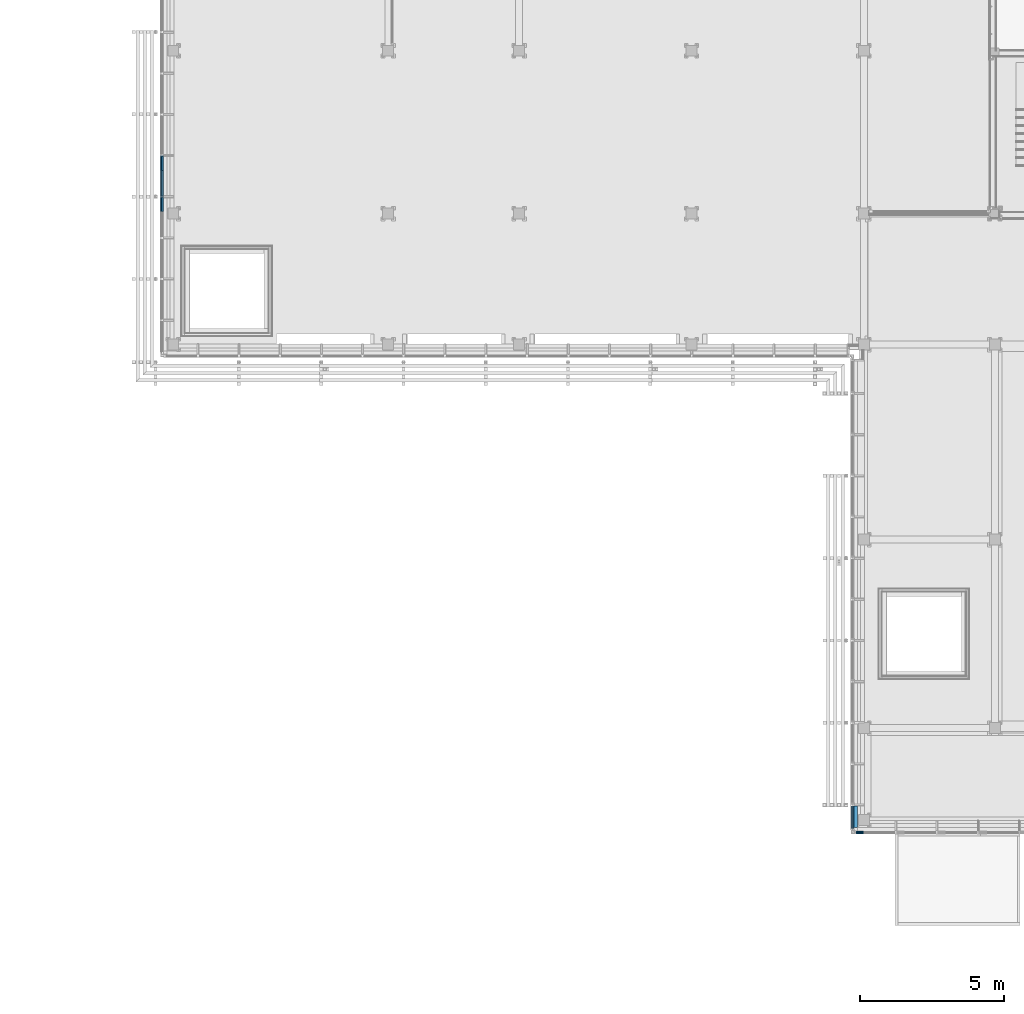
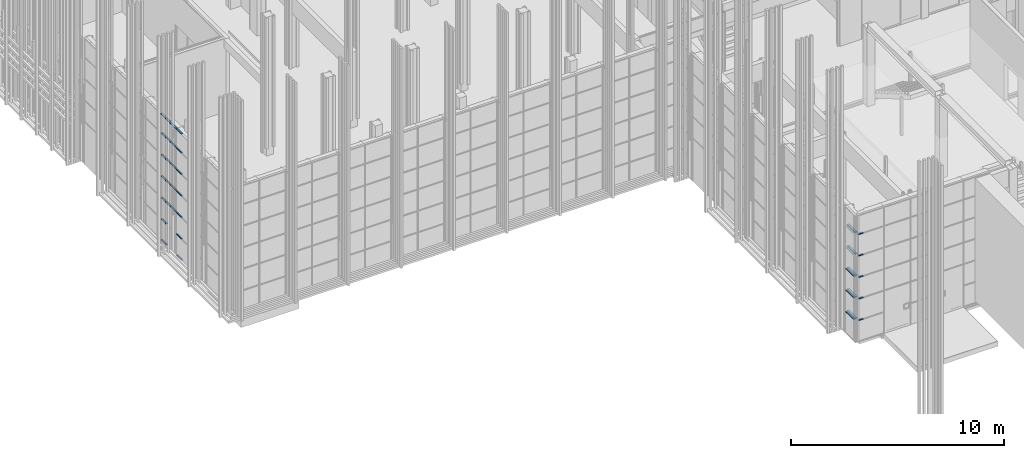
# One storey, part 40 of 260: 32 members, 2 elements without a shape of their own.
"""IFC2X3 building model written with IfcOpenShell, lengths in millimetres."""

import ifcopenshell
import ifcopenshell.guid

model = None  # the IFC model being written
_history = None  # IfcOwnerHistory: only IFC2X3 demands one
_inside = {}  # id of a spatial element -> (the spatial element, [elements in it])
_under = {}  # id of a project, library or spatial element -> (it, [spatial elements below it])
_declared = {}  # id of a project -> (the project, [libraries it declares])
_typed = {}  # id of a type object -> (the type object, [elements of that type])
_made_of = {}  # id of a material, layer set ... -> (it, [elements and type objects made of it])


def new_model(schema):
    """Start an empty IFC model of exactly this schema.

    Asked for "IFC4X3", IfcOpenShell would pick the latest addendum, in which some entities
    have other attributes; the version numbers below select the first issue.
    IFC2X3 requires an IfcOwnerHistory on every rooted entity: one is made here for all.
    """
    global model, _history
    if schema == "IFC4X3":
        model = ifcopenshell.file(schema_version=(4, 3, 0, 0))
    else:
        model = ifcopenshell.file(schema=schema)
    _inside.clear()
    _under.clear()
    _declared.clear()
    _typed.clear()
    _made_of.clear()
    _history = None
    if model.schema == "IFC2X3":
        org = make("IfcOrganization", Name="unknown")
        user = make(
            "IfcPersonAndOrganization",
            ThePerson=make("IfcPerson", FamilyName="unknown"),
            TheOrganization=org,
        )
        app = make(
            "IfcApplication",
            ApplicationDeveloper=org,
            Version="unknown",
            ApplicationFullName="unknown",
            ApplicationIdentifier="unknown",
        )
        _history = make(
            "IfcOwnerHistory",
            OwningUser=user,
            OwningApplication=app,
            ChangeAction="ADDED",
            CreationDate=0,
        )
    return model


def make(cls, **values):
    """One entity of the class cls with the attributes given. An attribute that is None is left unset."""
    return model.create_entity(
        cls, **{name: value for name, value in values.items() if value is not None}
    )


def entity(cls, *values):
    """Any entity or typed value of the class cls, its attributes in the order of the schema. None: left unset."""
    e = model.create_entity(cls)
    for i, value in enumerate(values):
        if value is not None:
            e[i] = value
    return e


def rooted(cls, **values):
    """An entity with a GlobalId (a new one), such as an element, a storey or a relation."""
    return make(cls, GlobalId=ifcopenshell.guid.new(), OwnerHistory=_history, **values)


def si_unit(unit_type, name, prefix=None):
    """IfcSIUnit, for example si_unit("LENGTHUNIT", "METRE", prefix="MILLI")."""
    return make("IfcSIUnit", UnitType=unit_type, Prefix=prefix, Name=name)


def converted_unit(unit_type, name, factor, base, dimensions=None, offset=None):
    """IfcConversionBasedUnit, such as the inch: factor (a typed value) times the base unit."""
    return make(
        "IfcConversionBasedUnit"
        if offset is None
        else "IfcConversionBasedUnitWithOffset",
        ConversionOffset=offset,
        Dimensions=None
        if dimensions is None
        else entity("IfcDimensionalExponents", *dimensions),
        UnitType=unit_type,
        Name=name,
        ConversionFactor=make(
            "IfcMeasureWithUnit", ValueComponent=factor, UnitComponent=base
        ),
    )


def derived_unit(unit_type, elements):
    """IfcDerivedUnit: a product of units, each with its exponent."""
    return make(
        "IfcDerivedUnit",
        Elements=[
            make("IfcDerivedUnitElement", Unit=unit, Exponent=power)
            for unit, power in elements
        ],
        UnitType=unit_type,
    )


def money_unit(currency):
    """IfcMonetaryUnit."""
    return make("IfcMonetaryUnit", Currency=currency)


def assignment(units):
    """IfcUnitAssignment: the units of a project."""
    return None if units is None else make("IfcUnitAssignment", Units=units)


def point(xyz):
    """IfcCartesianPoint."""
    return None if xyz is None else make("IfcCartesianPoint", Coordinates=xyz)


def direction(xyz):
    """IfcDirection."""
    return None if xyz is None else make("IfcDirection", DirectionRatios=xyz)


def frame(location, z_axis=None, x_axis=None):
    """IfcAxis2Placement3D, a coordinate frame: its origin and axes. An axis left out is left unset."""
    return make(
        "IfcAxis2Placement3D",
        Location=point(location),
        Axis=direction(z_axis),
        RefDirection=direction(x_axis),
    )


def origin_with_axes():
    """The frame at (0, 0, 0) with the z axis (0, 0, 1) and the x axis (1, 0, 0) written out."""
    return frame((0.0, 0.0, 0.0), z_axis=(0.0, 0.0, 1.0), x_axis=(1.0, 0.0, 0.0))


def place(relative_to, where):
    """IfcLocalPlacement: puts the frame where relative to a parent placement (None: the world)."""
    return make(
        "IfcLocalPlacement", PlacementRelTo=relative_to, RelativePlacement=where
    )


def context(
    kind, dimensions, precision=None, world=None, true_north=None, identifier=None
):
    """IfcGeometricRepresentationContext, for example the 3D "Model" context."""
    return make(
        "IfcGeometricRepresentationContext",
        ContextIdentifier=identifier,
        ContextType=kind,
        CoordinateSpaceDimension=dimensions,
        Precision=precision,
        WorldCoordinateSystem=world,
        TrueNorth=true_north,
    )


def subcontext(parent, identifier, kind, view, scale=None):
    """IfcGeometricRepresentationSubContext, for example "Body" below "Model"."""
    return make(
        "IfcGeometricRepresentationSubContext",
        ContextIdentifier=identifier,
        ContextType=kind,
        ParentContext=parent,
        TargetScale=scale,
        TargetView=view,
    )


def project(units=None, contexts=None):
    """IfcProject with its units and contexts."""
    return rooted(
        "IfcProject",
        Name="project",
        RepresentationContexts=contexts,
        UnitsInContext=assignment(units),
    )


def spatial(cls, under=None, at=None, **own):
    """A site, building, storey or space (cls), placed at a placement, below another one or the project."""
    s = rooted(cls, ObjectPlacement=at, **own)
    if under is not None:
        _under.setdefault(under.id(), (under, []))[1].append(s)
    return s


def faces_of(points, faces, orient=None, outer=None):
    """IfcFace entities. A face is a list of loops; a loop is a list of indices into points, from 0.

    orient and outer hold one flag for each loop. By default every Orientation is true, the
    first loop of a face is its IfcFaceOuterBound and the others are IfcFaceBound.
    """
    made = []
    for i, loops in enumerate(faces):
        bounds = []
        for j, loop in enumerate(loops):
            is_outer = j == 0 if outer is None else outer[i][j]
            bounds.append(
                make(
                    "IfcFaceOuterBound" if is_outer else "IfcFaceBound",
                    Bound=make("IfcPolyLoop", Polygon=[points[k] for k in loop]),
                    Orientation=True if orient is None else orient[i][j],
                )
            )
        made.append(make("IfcFace", Bounds=bounds))
    return made


def faceted_brep(points, faces, orient=None, outer=None, voids=None):
    """IfcFacetedBrep: a solid bounded by flat faces; with voids (closed shells), ...WithVoids."""
    shared = [point(p) for p in points]
    hull = make("IfcClosedShell", CfsFaces=faces_of(shared, faces, orient, outer))
    if voids is None:
        return make("IfcFacetedBrep", Outer=hull)
    return make(
        "IfcFacetedBrepWithVoids",
        Outer=hull,
        Voids=[
            make(cls, CfsFaces=faces_of(shared, fs, o, b)) for cls, fs, o, b in voids
        ],
    )


def shape(context_of_items, identifier, shape_type, items):
    """IfcShapeRepresentation: the items that make up one representation, for example the "Body"."""
    return make(
        "IfcShapeRepresentation",
        ContextOfItems=context_of_items,
        RepresentationIdentifier=identifier,
        RepresentationType=shape_type,
        Items=items,
    )


def source(mapping_origin, context_of_items, identifier, shape_type, items):
    """IfcRepresentationMap: a shape defined once, which mapped items show again and again."""
    return make(
        "IfcRepresentationMap",
        MappingOrigin=mapping_origin,
        MappedRepresentation=shape(context_of_items, identifier, shape_type, items),
    )


def transform(
    local_origin,
    x_axis=None,
    y_axis=None,
    z_axis=None,
    scale=None,
    scale2=None,
    scale3=None,
    uniform=True,
):
    """IfcCartesianTransformationOperator3D, or its non-uniform kind. x_axis, y_axis, z_axis: its Axis1, 2, 3."""
    if uniform:
        return make(
            "IfcCartesianTransformationOperator3D",
            Axis1=direction(x_axis),
            Axis2=direction(y_axis),
            LocalOrigin=point(local_origin),
            Scale=scale,
            Axis3=direction(z_axis),
        )
    return make(
        "IfcCartesianTransformationOperator3DnonUniform",
        Axis1=direction(x_axis),
        Axis2=direction(y_axis),
        LocalOrigin=point(local_origin),
        Scale=scale,
        Axis3=direction(z_axis),
        Scale2=scale2,
        Scale3=scale3,
    )


def mapped(mapping_source, mapping_target):
    """IfcMappedItem: shows the shape of a source again, moved by a transform."""
    return make(
        "IfcMappedItem", MappingSource=mapping_source, MappingTarget=mapping_target
    )


def material(Name=None, Category=None):
    """IfcMaterial."""
    return make("IfcMaterial", Name=Name, Category=Category)


def made_of(thing, what):
    """Note that an element or type object is made of a material, layer set ...; save() writes the relation."""
    if what is not None:
        _made_of.setdefault(what.id(), (what, []))[1].append(thing)
    return thing


def type_object(cls, material=None, **own):
    """A type object (cls), such as IfcWallType, which elements share."""
    return made_of(rooted(cls, **own), material)


def element(
    cls,
    number,
    at=None,
    inside=None,
    cuts=None,
    type_object=None,
    material=None,
    context=None,
    identifier="Body",
    shape_type=None,
    held_by="IfcProductDefinitionShape",
    body=None,
    shapes=None,
    **own,
):
    """One element of the class cls, such as IfcWall. Its Tag is "e" and its number.

    at: its placement. inside: the storey or other place that contains it. cuts: it is an
    opening in that element (IfcRelVoidsElement). A single representation is given by context,
    identifier, shape_type and body (its items); several are given by shapes. held_by: the class
    of the entity that holds the representations. save() writes the other relations.
    """
    e = rooted(cls, Tag="e%d" % number, ObjectPlacement=at, **own)
    if body is not None:
        shapes = [shape(context, identifier, shape_type, body)]
    if shapes is not None:
        e.Representation = make(held_by, Representations=shapes)
    if inside is not None:
        _inside.setdefault(inside.id(), (inside, []))[1].append(e)
    if cuts is not None:
        rooted(
            "IfcRelVoidsElement", RelatingBuildingElement=cuts, RelatedOpeningElement=e
        )
    if type_object is not None:
        _typed.setdefault(type_object.id(), (type_object, []))[1].append(e)
    return made_of(e, material)


def aggregate(whole, parts):
    """IfcRelAggregates: a whole, such as a stair, and the parts it consists of."""
    return rooted("IfcRelAggregates", RelatingObject=whole, RelatedObjects=parts)


def save(model, path):
    """Write the relations noted so far, then the file.

    IfcRelAggregates (storeys below a building ...), IfcRelContainedInSpatialStructure (elements
    in a storey), IfcRelDefinesByType, IfcRelAssociatesMaterial and IfcRelDeclares: one each for
    every whole, place, type object, material and project.
    """
    for whole, parts in _under.values():
        aggregate(whole, parts)
    for where, things in _inside.values():
        rooted(
            "IfcRelContainedInSpatialStructure",
            RelatedElements=things,
            RelatingStructure=where,
        )
    for kind, things in _typed.values():
        rooted("IfcRelDefinesByType", RelatedObjects=things, RelatingType=kind)
    for what, things in _made_of.values():
        rooted("IfcRelAssociatesMaterial", RelatedObjects=things, RelatingMaterial=what)
    for by, libraries in _declared.values():
        rooted("IfcRelDeclares", RelatingContext=by, RelatedDefinitions=libraries)
    model.write(path)


model = new_model("IFC2X3")

# Units and contexts
model_context = context("Model", 3, precision=0.01, world=origin_with_axes(), true_north=direction((0.0, 1.0)))
body_context = subcontext(model_context, "Body", "Model", "MODEL_VIEW")
ifc_project = project(units=[si_unit("LENGTHUNIT", "METRE", prefix="MILLI"), si_unit("AREAUNIT", "SQUARE_METRE"), si_unit("VOLUMEUNIT", "CUBIC_METRE"), converted_unit("PLANEANGLEUNIT", "DEGREE", entity("IfcPlaneAngleMeasure", 0.0174532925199), si_unit("PLANEANGLEUNIT", "RADIAN"), dimensions=[0, 0, 0, 0, 0, 0, 0]), money_unit("EUR"), converted_unit("TIMEUNIT", "Year", entity("IfcTimeMeasure", 31556926.0), si_unit("TIMEUNIT", "SECOND"), dimensions=[0, 0, 1, 0, 0, 0, 0]), si_unit("MASSUNIT", "GRAM", prefix="KILO"), si_unit("THERMODYNAMICTEMPERATUREUNIT", "DEGREE_CELSIUS"), si_unit("LUMINOUSINTENSITYUNIT", "LUMEN"), si_unit("ENERGYUNIT", "JOULE", prefix="MEGA"), derived_unit("THERMALCONDUCTANCEUNIT", [(si_unit("POWERUNIT", "WATT"), 1), (si_unit("LENGTHUNIT", "METRE"), -1), (si_unit("THERMODYNAMICTEMPERATUREUNIT", "KELVIN"), -1)]), derived_unit("SPECIFICHEATCAPACITYUNIT", [(si_unit("ENERGYUNIT", "JOULE"), 1), (si_unit("MASSUNIT", "GRAM", prefix="KILO"), -1), (si_unit("THERMODYNAMICTEMPERATUREUNIT", "KELVIN"), -1)]), derived_unit("MASSDENSITYUNIT", [(si_unit("MASSUNIT", "GRAM", prefix="KILO"), 1), (si_unit("VOLUMEUNIT", "CUBIC_METRE"), -1)])], contexts=[model_context])

# Site, building, storey
site_placement = place(None, origin_with_axes())
site = spatial("IfcSite", under=ifc_project, at=site_placement, Name="Kolde pst 67a", CompositionType="ELEMENT")
building_placement = place(site_placement, origin_with_axes())
building = spatial("IfcBuilding", under=site, at=building_placement, Name="Riigigümnaasium", CompositionType="ELEMENT")
storey_placement = place(building_placement, origin_with_axes())
storey = spatial("IfcBuildingStorey", under=building, at=storey_placement, Name="1. korrus", CompositionType="ELEMENT", Elevation=0.0)

# Curtain wall, members
curtain_wall_type = type_object("IfcCurtainWallType", Name="Curtain Wall Type", PredefinedType="NOTDEFINED")
curtain_wall_1_placement = place(storey_placement, frame((47829.9854655, 8727.77020058, -0.000749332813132), z_axis=(0.0, 0.0, 1.0), x_axis=(1.0, 0.0, 0.0)))
curtain_wall_1 = element("IfcCurtainWall", 1, at=curtain_wall_1_placement, inside=storey, type_object=curtain_wall_type, Name="KLAASFASSAAD")
ifc_material_1 = material(Name="_METALL - alumiinium")
member_type_1 = type_object("IfcMemberType", Name="Transom Frame 50 x 100", PredefinedType="MEMBER")
shared_shape_1 = source(origin_with_axes(), body_context, "Body", "Brep", [
    faceted_brep([(5.0, -16.5, 243.565581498), (5.0, 16.5, 243.565581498), (25.0, 16.5, 243.565581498), (25.0, 40.0, 243.565581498), (-25.0, 40.0, 243.565581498), (-25.0, 16.5, 243.565581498), (-5.0, 16.5, 243.565581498), (-5.0, -16.5, 243.565581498), (-25.0, -16.5, 243.565581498), (-25.0, -60.0, 243.565581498), (25.0, -60.0, 243.565581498), (25.0, -16.5, 243.565581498), (5.0, -16.5, 0.0), (5.0, 16.5, 0.0), (25.0, 16.5, 0.0), (25.0, 40.0, 0.0), (-25.0, 40.0, 0.0), (-25.0, 16.5, 0.0), (-5.0, 16.5, 0.0), (-5.0, -16.5, 0.0), (-25.0, -16.5, 0.0), (-25.0, -60.0, 0.0), (25.0, -60.0, 0.0), (25.0, -16.5, 0.0)], [[[0, 1, 2, 3, 4, 5, 6, 7, 8, 9, 10, 11]], [[0, 12, 13, 1]], [[1, 13, 14, 2]], [[14, 15, 3, 2]], [[3, 15, 16, 4]], [[17, 5, 4, 16]], [[5, 17, 18, 6]], [[7, 6, 18, 19]], [[8, 7, 19, 20]], [[8, 20, 21, 9]], [[9, 21, 22, 10]], [[11, 10, 22, 23]], [[11, 23, 12, 0]], [[13, 12, 23, 22, 21, 20, 19, 18, 17, 16, 15, 14]]]),
])
member_1_placement = place(curtain_wall_1_placement, frame((383.565582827, -1457.77020398, 1230.00074933), z_axis=(-1.0, 2.70881141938e-07, 0.0), x_axis=(0.0, 0.0, 1.0)))
member_1 = element("IfcMember", 2, at=member_1_placement, type_object=member_type_1, material=ifc_material_1, Name="RF RAAM HOR-669", ObjectType="MEMBER", context=body_context, shape_type="MappedRepresentation", body=[
    mapped(shared_shape_1, transform((0.0, 0.0, 0.0), x_axis=(-1.0, 0.0, 0.0), y_axis=(0.0, -1.0, 0.0), z_axis=(0.0, 0.0, 1.0))),
])
member_2_placement = place(curtain_wall_1_placement, frame((383.565582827, -1457.77020398, 2460.00074933), z_axis=(-1.0, 2.70881141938e-07, 0.0), x_axis=(0.0, 0.0, 1.0)))
member_2 = element("IfcMember", 3, at=member_2_placement, type_object=member_type_1, material=ifc_material_1, Name="RF RAAM HOR-669", ObjectType="MEMBER", context=body_context, shape_type="MappedRepresentation", body=[
    mapped(shared_shape_1, transform((0.0, 0.0, 0.0), x_axis=(-1.0, 0.0, 0.0), y_axis=(0.0, -1.0, 0.0), z_axis=(0.0, 0.0, 1.0))),
])
member_3_placement = place(curtain_wall_1_placement, frame((383.565582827, -1457.77020398, 3690.00074933), z_axis=(-1.0, 2.70881141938e-07, 0.0), x_axis=(0.0, 0.0, 1.0)))
member_3 = element("IfcMember", 4, at=member_3_placement, type_object=member_type_1, material=ifc_material_1, Name="RF RAAM HOR-704", ObjectType="MEMBER", context=body_context, shape_type="MappedRepresentation", body=[
    mapped(shared_shape_1, transform((0.0, 0.0, 0.0), x_axis=(-1.0, 0.0, 0.0), y_axis=(0.0, -1.0, 0.0), z_axis=(0.0, 0.0, 1.0))),
])
shared_shape_2 = source(origin_with_axes(), body_context, "Body", "Brep", [
    faceted_brep([(5.0, -16.5, 258.565581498), (5.0, 16.5, 258.565581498), (25.0, 16.5, 258.565581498), (25.0, 40.0, 258.565581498), (-25.0, 40.0, 258.565581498), (-25.0, 16.5, 258.565581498), (-5.0, 16.5, 258.565581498), (-5.0, -16.5, 258.565581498), (-25.0, -16.5, 258.565581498), (-25.0, -60.0, 258.565581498), (25.0, -60.0, 258.565581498), (25.0, -16.5, 258.565581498), (5.0, -16.5, 0.0), (5.0, 16.5, 0.0), (25.0, 16.5, 0.0), (25.0, 40.0, 0.0), (-25.0, 40.0, 0.0), (-25.0, 16.5, 0.0), (-5.0, 16.5, 0.0), (-5.0, -16.5, 0.0), (-25.0, -16.5, 0.0), (-25.0, -60.0, 0.0), (25.0, -60.0, 0.0), (25.0, -16.5, 0.0)], [[[0, 1, 2, 3, 4, 5, 6, 7, 8, 9, 10, 11]], [[0, 12, 13, 1]], [[1, 13, 14, 2]], [[14, 15, 3, 2]], [[3, 15, 16, 4]], [[17, 5, 4, 16]], [[5, 17, 18, 6]], [[7, 6, 18, 19]], [[8, 7, 19, 20]], [[8, 20, 21, 9]], [[9, 21, 22, 10]], [[11, 10, 22, 23]], [[11, 23, 12, 0]], [[13, 12, 23, 22, 21, 20, 19, 18, 17, 16, 15, 14]]]),
])
member_4_placement = place(curtain_wall_1_placement, frame((383.565582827, -1457.77020398, 4920.00074933), z_axis=(-1.0, 2.70881141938e-07, 0.0), x_axis=(0.0, 0.0, 1.0)))
member_4 = element("IfcMember", 5, at=member_4_placement, type_object=member_type_1, material=ifc_material_1, Name="RF RAAM HOR-686", ObjectType="MEMBER", context=body_context, shape_type="MappedRepresentation", body=[
    mapped(shared_shape_2, transform((0.0, 0.0, 0.0), x_axis=(-1.0, 0.0, 0.0), y_axis=(0.0, -1.0, 0.0), z_axis=(0.0, 0.0, 1.0))),
])
member_5_placement = place(curtain_wall_1_placement, frame((383.565582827, -1457.77020398, 6150.00074933), z_axis=(-1.0, 2.70881141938e-07, 0.0), x_axis=(0.0, 0.0, 1.0)))
member_5 = element("IfcMember", 6, at=member_5_placement, type_object=member_type_1, material=ifc_material_1, Name="RF RAAM HOR-692", ObjectType="MEMBER", context=body_context, shape_type="MappedRepresentation", body=[
    mapped(shared_shape_2, transform((0.0, 0.0, 0.0), x_axis=(-1.0, 0.0, 0.0), y_axis=(0.0, -1.0, 0.0), z_axis=(0.0, 0.0, 1.0))),
])
member_type_2 = type_object("IfcMemberType", Name="Boundary Frame 50 x 100", PredefinedType="MEMBER")
shared_shape_3 = source(origin_with_axes(), body_context, "Body", "Brep", [
    faceted_brep([(-30.0, -16.5, 920.000003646), (-50.0, -16.5, 920.000003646), (-50.0, -60.0, 920.000003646), (0.0, -60.0, 920.000003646), (0.0, 40.0, 920.000003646), (-50.0, 40.0, 920.000003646), (-50.0, 16.5, 920.000003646), (-30.0, 16.5, 920.000003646), (-30.0, -16.5, 0.0), (-50.0, -16.5, 0.0), (-50.0, -60.0, 0.0), (0.0, -60.0, 0.0), (0.0, 40.0, 0.0), (-50.0, 40.0, 0.0), (-50.0, 16.5, 0.0), (-30.0, 16.5, 0.0)], [[[0, 1, 2, 3, 4, 5, 6, 7]], [[0, 8, 9, 1]], [[9, 10, 2, 1]], [[10, 11, 3, 2]], [[11, 12, 4, 3]], [[12, 13, 5, 4]], [[6, 5, 13, 14]], [[14, 15, 7, 6]], [[7, 15, 8, 0]], [[8, 15, 14, 13, 12, 11, 10, 9]]]),
])
member_6_placement = place(curtain_wall_1_placement, frame((-23999.9347902, 21557.2742144, 7259.99963417), z_axis=(-7.64768489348e-06, -0.999999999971, 0.0), x_axis=(0.0, 0.0, -1.0)))
member_6 = element("IfcMember", 7, at=member_6_placement, type_object=member_type_2, material=ifc_material_1, Name="RF RAAM SERV-658", ObjectType="MEMBER", context=body_context, shape_type="MappedRepresentation", body=[
    mapped(shared_shape_3, transform((0.0, 0.0, 0.0), x_axis=(-1.0, 0.0, 0.0), y_axis=(0.0, -0.999999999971, 7.64768489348e-06), z_axis=(0.0, 7.64768489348e-06, 0.999999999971))),
])
shared_shape_4 = source(origin_with_axes(), body_context, "Body", "Brep", [
    faceted_brep([(5.0, -16.5, 919.999993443), (5.0, 16.5, 919.999993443), (25.0, 16.5, 919.999993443), (25.0, 40.0, 919.999993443), (-25.0, 40.0, 919.999993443), (-25.0, 16.5, 919.999993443), (-5.0, 16.5, 919.999993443), (-5.0, -16.5, 919.999993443), (-25.0, -16.5, 919.999993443), (-25.0, -60.0, 919.999993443), (25.0, -60.0, 919.999993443), (25.0, -16.5, 919.999993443), (5.0, -16.5, 25.0000001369), (5.0, 16.5, 24.9999998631), (25.0, 16.5, 24.9999998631), (25.0, 40.0, 24.9999996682), (-25.0, 40.0, 24.9999996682), (-25.0, 16.5, 24.9999998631), (-5.0, 16.5, 24.9999998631), (-5.0, -16.5, 25.0000001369), (-25.0, -16.5, 25.0000001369), (-25.0, -60.0, 25.0000004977), (25.0, -60.0, 25.0000004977), (25.0, -16.5, 25.0000001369)], [[[0, 1, 2, 3, 4, 5, 6, 7, 8, 9, 10, 11]], [[0, 12, 13, 1]], [[1, 13, 14, 2]], [[14, 15, 3, 2]], [[4, 3, 15, 16]], [[17, 5, 4, 16]], [[5, 17, 18, 6]], [[7, 6, 18, 19]], [[8, 7, 19, 20]], [[8, 20, 21, 9]], [[10, 9, 21, 22]], [[11, 10, 22, 23]], [[11, 23, 12, 0]], [[13, 12, 23, 22, 21, 20, 19, 18, 17, 16, 15, 14]]]),
])
member_7_placement = place(curtain_wall_1_placement, frame((-23999.9418261, 20637.274221, 2460.00074933), z_axis=(7.64768489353e-06, 0.999999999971, 0.0), x_axis=(0.0, 0.0, 1.0)))
member_7 = element("IfcMember", 8, at=member_7_placement, type_object=member_type_1, material=ifc_material_1, Name="RF RAAM HOR-315", ObjectType="MEMBER", context=body_context, shape_type="MappedRepresentation", body=[
    mapped(shared_shape_4, transform((0.0, 0.0, 0.0), x_axis=(-1.0, 0.0, 0.0), y_axis=(0.0, -1.0, 0.0), z_axis=(0.0, 0.0, 1.0))),
])
member_8_placement = place(curtain_wall_1_placement, frame((-23999.9418261, 20637.274221, 3690.00074933), z_axis=(7.64768489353e-06, 0.999999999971, 0.0), x_axis=(0.0, 0.0, 1.0)))
member_8 = element("IfcMember", 9, at=member_8_placement, type_object=member_type_1, material=ifc_material_1, Name="RF RAAM HOR-326", ObjectType="MEMBER", context=body_context, shape_type="MappedRepresentation", body=[
    mapped(shared_shape_4, transform((0.0, 0.0, 0.0), x_axis=(-1.0, 0.0, 0.0), y_axis=(0.0, -1.0, 0.0), z_axis=(0.0, 0.0, 1.0))),
])
member_9_placement = place(curtain_wall_1_placement, frame((-23999.9418261, 20637.274221, 4920.00074933), z_axis=(7.64768489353e-06, 0.999999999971, 0.0), x_axis=(0.0, 0.0, 1.0)))
member_9 = element("IfcMember", 10, at=member_9_placement, type_object=member_type_1, material=ifc_material_1, Name="RF RAAM HOR-337", ObjectType="MEMBER", context=body_context, shape_type="MappedRepresentation", body=[
    mapped(shared_shape_4, transform((0.0, 0.0, 0.0), x_axis=(-1.0, 0.0, 0.0), y_axis=(0.0, -1.0, 0.0), z_axis=(0.0, 0.0, 1.0))),
])
member_10_placement = place(curtain_wall_1_placement, frame((-23999.9418261, 20637.2742038, 6150.00074933), z_axis=(7.64768489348e-06, 0.999999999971, 0.0), x_axis=(0.0, 0.0, 1.0)))
member_10 = element("IfcMember", 11, at=member_10_placement, type_object=member_type_1, material=ifc_material_1, Name="RF RAAM HOR-348", ObjectType="MEMBER", context=body_context, shape_type="MappedRepresentation", body=[
    mapped(shared_shape_4, transform((0.0, 0.0, 0.0), x_axis=(-1.0, 0.0, 0.0), y_axis=(0.0, -1.0, 0.0), z_axis=(0.0, 0.0, 1.0))),
])
shared_shape_5 = source(origin_with_axes(), body_context, "Body", "Brep", [
    faceted_brep([(5.0, -16.5, 485.000001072), (5.0, 16.5, 485.000001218), (25.0, 16.5, 485.000001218), (25.0, 40.0, 485.000001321), (-25.0, 40.0, 485.000001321), (-25.0, 16.5, 485.000001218), (-5.0, 16.5, 485.000001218), (-5.0, -16.5, 485.000001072), (-25.0, -16.5, 485.000001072), (-25.0, -60.0, 485.000000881), (25.0, -60.0, 485.000000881), (25.0, -16.5, 485.000001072), (5.0, -16.5, 0.0), (5.0, 16.5, 0.0), (25.0, 16.5, 0.0), (25.0, 40.0, 0.0), (-25.0, 40.0, 0.0), (-25.0, 16.5, 0.0), (-5.0, 16.5, 0.0), (-5.0, -16.5, 0.0), (-25.0, -16.5, 0.0), (-25.0, -60.0, 0.0), (25.0, -60.0, 0.0), (25.0, -16.5, 0.0)], [[[0, 1, 2, 3, 4, 5, 6, 7, 8, 9, 10, 11]], [[0, 12, 13, 1]], [[1, 13, 14, 2]], [[14, 15, 3, 2]], [[3, 15, 16, 4]], [[17, 5, 4, 16]], [[5, 17, 18, 6]], [[7, 6, 18, 19]], [[8, 7, 19, 20]], [[8, 20, 21, 9]], [[9, 21, 22, 10]], [[11, 10, 22, 23]], [[11, 23, 12, 0]], [[13, 12, 23, 22, 21, 20, 19, 18, 17, 16, 15, 14]]]),
])
member_11_placement = place(curtain_wall_1_placement, frame((-23999.9347902, 21557.2742144, 6150.00074933), z_axis=(7.6476848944e-06, 0.999999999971, 0.0), x_axis=(0.0, 0.0, 1.0)))
member_11 = element("IfcMember", 12, at=member_11_placement, type_object=member_type_1, material=ifc_material_1, Name="RF RAAM HOR-595", ObjectType="MEMBER", context=body_context, shape_type="MappedRepresentation", body=[
    mapped(shared_shape_5, transform((0.0, 0.0, 0.0), x_axis=(-1.0, 0.0, 0.0), y_axis=(0.0, -1.0, 0.0), z_axis=(0.0, 0.0, 1.0))),
])
member_12_placement = place(curtain_wall_1_placement, frame((-23999.9457264, 20127.2742144, 6150.00074933), z_axis=(7.64768489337e-06, 0.999999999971, 0.0), x_axis=(0.0, 0.0, 1.0)))
member_12 = element("IfcMember", 13, at=member_12_placement, type_object=member_type_1, material=ifc_material_1, Name="RF RAAM HOR-596", ObjectType="MEMBER", context=body_context, shape_type="MappedRepresentation", body=[
    mapped(shared_shape_5, transform((0.0, 0.0, 0.0), x_axis=(-1.0, 0.0, 0.0), y_axis=(0.0, -1.0, 0.0), z_axis=(0.0, 0.0, 1.0))),
])
member_13_placement = place(curtain_wall_1_placement, frame((-23999.9347902, 21557.2742144, 4920.00074933), z_axis=(7.64768489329e-06, 0.999999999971, 0.0), x_axis=(0.0, 0.0, 1.0)))
member_13 = element("IfcMember", 14, at=member_13_placement, type_object=member_type_1, material=ifc_material_1, Name="RF RAAM HOR-616", ObjectType="MEMBER", context=body_context, shape_type="MappedRepresentation", body=[
    mapped(shared_shape_5, transform((0.0, 0.0, 0.0), x_axis=(-1.0, 0.0, 0.0), y_axis=(0.0, -1.0, 0.0), z_axis=(0.0, 0.0, 1.0))),
])
member_14_placement = place(curtain_wall_1_placement, frame((-23999.9347902, 21557.2742144, 3690.00074933), z_axis=(7.64768489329e-06, 0.999999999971, 0.0), x_axis=(0.0, 0.0, 1.0)))
member_14 = element("IfcMember", 15, at=member_14_placement, type_object=member_type_1, material=ifc_material_1, Name="RF RAAM HOR-617", ObjectType="MEMBER", context=body_context, shape_type="MappedRepresentation", body=[
    mapped(shared_shape_5, transform((0.0, 0.0, 0.0), x_axis=(-1.0, 0.0, 0.0), y_axis=(0.0, -1.0, 0.0), z_axis=(0.0, 0.0, 1.0))),
])
member_15_placement = place(curtain_wall_1_placement, frame((-23999.9347902, 21557.2742144, 2460.00074933), z_axis=(7.64768489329e-06, 0.999999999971, 0.0), x_axis=(0.0, 0.0, 1.0)))
member_15 = element("IfcMember", 16, at=member_15_placement, type_object=member_type_1, material=ifc_material_1, Name="RF RAAM HOR-618", ObjectType="MEMBER", context=body_context, shape_type="MappedRepresentation", body=[
    mapped(shared_shape_5, transform((0.0, 0.0, 0.0), x_axis=(-1.0, 0.0, 0.0), y_axis=(0.0, -1.0, 0.0), z_axis=(0.0, 0.0, 1.0))),
])
member_16_placement = place(curtain_wall_1_placement, frame((-23999.9347902, 21557.2742144, 1230.00074933), z_axis=(7.64768489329e-06, 0.999999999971, 0.0), x_axis=(0.0, 0.0, 1.0)))
member_16 = element("IfcMember", 17, at=member_16_placement, type_object=member_type_1, material=ifc_material_1, Name="RF RAAM HOR-619", ObjectType="MEMBER", context=body_context, shape_type="MappedRepresentation", body=[
    mapped(shared_shape_5, transform((0.0, 0.0, 0.0), x_axis=(-1.0, 0.0, 0.0), y_axis=(0.0, -1.0, 0.0), z_axis=(0.0, 0.0, 1.0))),
])
member_17_placement = place(curtain_wall_1_placement, frame((-23999.9457264, 20127.2742144, 4920.00074933), z_axis=(7.64768489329e-06, 0.999999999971, 0.0), x_axis=(0.0, 0.0, 1.0)))
member_17 = element("IfcMember", 18, at=member_17_placement, type_object=member_type_1, material=ifc_material_1, Name="RF RAAM HOR-620", ObjectType="MEMBER", context=body_context, shape_type="MappedRepresentation", body=[
    mapped(shared_shape_5, transform((0.0, 0.0, 0.0), x_axis=(-1.0, 0.0, 0.0), y_axis=(0.0, -1.0, 0.0), z_axis=(0.0, 0.0, 1.0))),
])
member_18_placement = place(curtain_wall_1_placement, frame((-23999.9457264, 20127.2742144, 3690.00074933), z_axis=(7.64768489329e-06, 0.999999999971, 0.0), x_axis=(0.0, 0.0, 1.0)))
member_18 = element("IfcMember", 19, at=member_18_placement, type_object=member_type_1, material=ifc_material_1, Name="RF RAAM HOR-621", ObjectType="MEMBER", context=body_context, shape_type="MappedRepresentation", body=[
    mapped(shared_shape_5, transform((0.0, 0.0, 0.0), x_axis=(-1.0, 0.0, 0.0), y_axis=(0.0, -1.0, 0.0), z_axis=(0.0, 0.0, 1.0))),
])
member_19_placement = place(curtain_wall_1_placement, frame((-23999.9457264, 20127.2742144, 2460.00074933), z_axis=(7.64768489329e-06, 0.999999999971, 0.0), x_axis=(0.0, 0.0, 1.0)))
member_19 = element("IfcMember", 20, at=member_19_placement, type_object=member_type_1, material=ifc_material_1, Name="RF RAAM HOR-622", ObjectType="MEMBER", context=body_context, shape_type="MappedRepresentation", body=[
    mapped(shared_shape_5, transform((0.0, 0.0, 0.0), x_axis=(-1.0, 0.0, 0.0), y_axis=(0.0, -1.0, 0.0), z_axis=(0.0, 0.0, 1.0))),
])
member_20_placement = place(curtain_wall_1_placement, frame((-23999.9457264, 20127.2742144, 1230.00074933), z_axis=(7.64768489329e-06, 0.999999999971, 0.0), x_axis=(0.0, 0.0, 1.0)))
member_20 = element("IfcMember", 21, at=member_20_placement, type_object=member_type_1, material=ifc_material_1, Name="RF RAAM HOR-623", ObjectType="MEMBER", context=body_context, shape_type="MappedRepresentation", body=[
    mapped(shared_shape_5, transform((0.0, 0.0, 0.0), x_axis=(-1.0, 0.0, 0.0), y_axis=(0.0, -1.0, 0.0), z_axis=(0.0, 0.0, 1.0))),
])
shared_shape_6 = source(origin_with_axes(), body_context, "Body", "Brep", [
    faceted_brep([(-30.0, -16.5, 510.000003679), (-50.0, -16.5, 510.000003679), (-50.0, -60.0, 510.000003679), (0.0, -60.0, 510.000003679), (0.0, 40.0, 510.000003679), (-50.0, 40.0, 510.000003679), (-50.0, 16.5, 510.000003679), (-30.0, 16.5, 510.000003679), (-30.0, -16.5, 0.0), (-50.0, -16.5, 0.0), (-50.0, -60.0, 0.0), (0.0, -60.0, 0.0), (0.0, 40.0, 0.0), (-50.0, 40.0, 0.0), (-50.0, 16.5, 0.0), (-30.0, 16.5, 0.0)], [[[0, 1, 2, 3, 4, 5, 6, 7]], [[0, 8, 9, 1]], [[9, 10, 2, 1]], [[10, 11, 3, 2]], [[11, 12, 4, 3]], [[12, 13, 5, 4]], [[6, 5, 13, 14]], [[14, 15, 7, 6]], [[7, 15, 8, 0]], [[8, 15, 14, 13, 12, 11, 10, 9]]]),
])
member_21_placement = place(curtain_wall_1_placement, frame((-23999.9347902, 21557.2742144, 2.49889189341e-05), z_axis=(7.6476848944e-06, 0.999999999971, 0.0), x_axis=(0.0, 0.0, 1.0)))
member_21 = element("IfcMember", 22, at=member_21_placement, type_object=member_type_2, material=ifc_material_1, Name="RF RAAM SERV-640", ObjectType="MEMBER", context=body_context, shape_type="MappedRepresentation", body=[
    mapped(shared_shape_6, transform((0.0, 0.0, 0.0), x_axis=(-1.0, 0.0, 0.0), y_axis=(0.0, -1.0, 0.0), z_axis=(0.0, 0.0, 1.0))),
])
member_22_placement = place(curtain_wall_1_placement, frame((-23999.9457264, 20127.2742144, 2.49889189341e-05), z_axis=(7.64768489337e-06, 0.999999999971, 0.0), x_axis=(0.0, 0.0, 1.0)))
member_22 = element("IfcMember", 23, at=member_22_placement, type_object=member_type_2, material=ifc_material_1, Name="RF RAAM SERV-639", ObjectType="MEMBER", context=body_context, shape_type="MappedRepresentation", body=[
    mapped(shared_shape_6, transform((0.0, 0.0, 0.0), x_axis=(-1.0, 0.0, 0.0), y_axis=(0.0, -1.0, 0.0), z_axis=(0.0, 0.0, 1.0))),
])
member_23_placement = place(curtain_wall_1_placement, frame((-23999.9418261, 20637.2742038, 7259.99963417), z_axis=(-7.64768489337e-06, -0.999999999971, 0.0), x_axis=(0.0, 0.0, -1.0)))
member_23 = element("IfcMember", 24, at=member_23_placement, type_object=member_type_2, material=ifc_material_1, Name="RF RAAM SERV-658", ObjectType="MEMBER", context=body_context, shape_type="MappedRepresentation", body=[
    mapped(shared_shape_6, transform((0.0, 0.0, 0.0), x_axis=(-1.0, 0.0, 0.0), y_axis=(0.0, -0.999999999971, 7.64768489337e-06), z_axis=(0.0, 7.64768489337e-06, 0.999999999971))),
])
member_24_placement = place(curtain_wall_1_placement, frame((-23999.9308899, 22067.2742227, 7259.99963417), z_axis=(-7.6476848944e-06, -0.999999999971, 0.0), x_axis=(0.0, 0.0, -1.0)))
member_24 = element("IfcMember", 25, at=member_24_placement, type_object=member_type_2, material=ifc_material_1, Name="RF RAAM SERV-657", ObjectType="MEMBER", context=body_context, shape_type="MappedRepresentation", body=[
    mapped(shared_shape_6, transform((0.0, 0.0, 0.0), x_axis=(-1.0, 0.0, 0.0), y_axis=(0.0, -0.999999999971, 7.6476848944e-06), z_axis=(0.0, 7.6476848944e-06, 0.999999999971))),
])
shared_shape_7 = source(origin_with_axes(), body_context, "Body", "Brep", [
    faceted_brep([(5.0, -16.5, 927.939946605), (5.0, 16.5, 927.939946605), (25.0, 16.5, 927.939946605), (25.0, 40.0, 927.939946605), (-25.0, 40.0, 927.939946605), (-25.0, 16.5, 927.939946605), (-5.0, 16.5, 927.939946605), (-5.0, -16.5, 927.939946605), (-25.0, -16.5, 927.939946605), (-25.0, -60.0, 927.939946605), (25.0, -60.0, 927.939946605), (25.0, -16.5, 927.939946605), (5.0, -16.5, 140.0), (5.0, 16.5, 140.0), (25.0, 16.5, 140.0), (25.0, 40.0, 140.0), (-25.0, 40.0, 140.0), (-25.0, 16.5, 140.0), (-5.0, 16.5, 140.0), (-5.0, -16.5, 140.0), (-25.0, -16.5, 140.0), (-25.0, -60.0, 140.0), (25.0, -60.0, 140.0), (25.0, -16.5, 140.0)], [[[0, 1, 2, 3, 4, 5, 6, 7, 8, 9, 10, 11]], [[0, 12, 13, 1]], [[1, 13, 14, 2]], [[14, 15, 3, 2]], [[4, 3, 15, 16]], [[17, 5, 4, 16]], [[5, 17, 18, 6]], [[7, 6, 18, 19]], [[8, 7, 19, 20]], [[8, 20, 21, 9]], [[10, 9, 21, 22]], [[11, 10, 22, 23]], [[11, 23, 12, 0]], [[13, 12, 23, 22, 21, 20, 19, 18, 17, 16, 15, 14]]]),
])
member_25_placement = place(curtain_wall_1_placement, frame((1.32891386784e-06, -1457.77010008, 1230.00074933), z_axis=(-9.11617418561e-10, 1.0, 0.0), x_axis=(0.0, 0.0, 1.0)))
member_25 = element("IfcMember", 26, at=member_25_placement, type_object=member_type_1, material=ifc_material_1, Name="RF RAAM HOR-943", ObjectType="MEMBER", context=body_context, shape_type="MappedRepresentation", body=[
    mapped(shared_shape_7, transform((0.0, 0.0, 0.0), x_axis=(-1.0, 0.0, 0.0), y_axis=(0.0, -1.0, 9.11617296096e-10), z_axis=(0.0, 9.11617296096e-10, 1.0))),
])
member_26_placement = place(curtain_wall_1_placement, frame((1.32891386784e-06, -1457.77010008, 2460.00074933), z_axis=(-9.11617418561e-10, 1.0, 0.0), x_axis=(0.0, 0.0, 1.0)))
member_26 = element("IfcMember", 27, at=member_26_placement, type_object=member_type_1, material=ifc_material_1, Name="RF RAAM HOR-944", ObjectType="MEMBER", context=body_context, shape_type="MappedRepresentation", body=[
    mapped(shared_shape_7, transform((0.0, 0.0, 0.0), x_axis=(-1.0, 0.0, 0.0), y_axis=(0.0, -1.0, 9.11617296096e-10), z_axis=(0.0, 9.11617296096e-10, 1.0))),
])
member_27_placement = place(curtain_wall_1_placement, frame((1.32891386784e-06, -1457.77010008, 3690.00074933), z_axis=(-9.11617418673e-10, 1.0, 0.0), x_axis=(0.0, 0.0, 1.0)))
member_27 = element("IfcMember", 28, at=member_27_placement, type_object=member_type_1, material=ifc_material_1, Name="RF RAAM HOR-945", ObjectType="MEMBER", context=body_context, shape_type="MappedRepresentation", body=[
    mapped(shared_shape_7, transform((0.0, 0.0, 0.0), x_axis=(-1.0, 0.0, 0.0), y_axis=(0.0, -1.0, 9.11617296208e-10), z_axis=(0.0, 9.11617296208e-10, 1.0))),
])
aggregate(curtain_wall_1, [member_1, member_2, member_3, member_4, member_5, member_7, member_8, member_9, member_10, member_11, member_12, member_13, member_14, member_15, member_16, member_21, member_17, member_18, member_19, member_20, member_22, member_25, member_26, member_27, member_23, member_24, member_6])

curtain_wall_2_placement = place(storey_placement, frame((47889.9854796, 7778.28071079, -0.000681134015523), z_axis=(0.0, 0.0, 1.0), x_axis=(1.0, 0.0, 0.0)))
curtain_wall_2 = element("IfcCurtainWall", 29, at=curtain_wall_2_placement, inside=storey, type_object=curtain_wall_type, Name="Klaasfassaadi puitkarkass")
ifc_material_2 = material(Name="_KANDETARIND - liimpuit vastavalt EK osale")
member_type_3 = type_object("IfcMemberType", Name="Transom Frame 60 x 120", PredefinedType="MEMBER")
shared_shape_8 = source(origin_with_axes(), body_context, "Body", "Brep", [
    faceted_brep([(-30.0, 0.0, 120.0), (-30.0, -120.0, 120.0), (-30.0, -120.0, 866.561270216), (-30.0, 0.0, 866.561270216), (30.0, 0.0, 120.0), (30.0, -120.0, 120.0), (30.0, -120.0, 866.561270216), (30.0, 0.0, 866.561270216)], [[[0, 1, 2, 3]], [[1, 0, 4, 5]], [[1, 5, 6, 2]], [[2, 6, 7, 3]], [[4, 0, 3, 7]], [[5, 4, 7, 6]]]),
])
member_28_placement = place(curtain_wall_2_placement, frame((4.81776396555e-07, -448.280635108, 6150.00068113), z_axis=(-1.07471259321e-09, 1.0, 0.0), x_axis=(0.0, 0.0, 1.0)))
member_28 = element("IfcMember", 30, at=member_28_placement, type_object=member_type_3, material=ifc_material_2, Name="RF RAAM HOR-249", ObjectType="MEMBER", context=body_context, shape_type="MappedRepresentation", body=[
    mapped(shared_shape_8, transform((0.0, 0.0, 0.0), x_axis=(-1.0, 0.0, 0.0), y_axis=(0.0, -1.0, 1.07471247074e-09), z_axis=(0.0, 1.07471247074e-09, 1.0))),
])
member_29_placement = place(curtain_wall_2_placement, frame((4.81776396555e-07, -448.280635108, 4920.00068113), z_axis=(-1.07471259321e-09, 1.0, 0.0), x_axis=(0.0, 0.0, 1.0)))
member_29 = element("IfcMember", 31, at=member_29_placement, type_object=member_type_3, material=ifc_material_2, Name="RF RAAM HOR-249", ObjectType="MEMBER", context=body_context, shape_type="MappedRepresentation", body=[
    mapped(shared_shape_8, transform((0.0, 0.0, 0.0), x_axis=(-1.0, 0.0, 0.0), y_axis=(0.0, -1.0, 1.07471247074e-09), z_axis=(0.0, 1.07471247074e-09, 1.0))),
])
member_30_placement = place(curtain_wall_2_placement, frame((4.81776396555e-07, -448.280635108, 3690.00068113), z_axis=(-1.07471259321e-09, 1.0, 0.0), x_axis=(0.0, 0.0, 1.0)))
member_30 = element("IfcMember", 32, at=member_30_placement, type_object=member_type_3, material=ifc_material_2, Name="RF RAAM HOR-249", ObjectType="MEMBER", context=body_context, shape_type="MappedRepresentation", body=[
    mapped(shared_shape_8, transform((0.0, 0.0, 0.0), x_axis=(-1.0, 0.0, 0.0), y_axis=(0.0, -1.0, 1.07471247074e-09), z_axis=(0.0, 1.07471247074e-09, 1.0))),
])
member_31_placement = place(curtain_wall_2_placement, frame((4.81776396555e-07, -448.280635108, 2460.00068113), z_axis=(-1.07471259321e-09, 1.0, 0.0), x_axis=(0.0, 0.0, 1.0)))
member_31 = element("IfcMember", 33, at=member_31_placement, type_object=member_type_3, material=ifc_material_2, Name="RF RAAM HOR-249", ObjectType="MEMBER", context=body_context, shape_type="MappedRepresentation", body=[
    mapped(shared_shape_8, transform((0.0, 0.0, 0.0), x_axis=(-1.0, 0.0, 0.0), y_axis=(0.0, -1.0, 1.07471247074e-09), z_axis=(0.0, 1.07471247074e-09, 1.0))),
])
member_32_placement = place(curtain_wall_2_placement, frame((4.81776396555e-07, -448.280635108, 1230.00068113), z_axis=(-1.07471259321e-09, 1.0, 0.0), x_axis=(0.0, 0.0, 1.0)))
member_32 = element("IfcMember", 34, at=member_32_placement, type_object=member_type_3, material=ifc_material_2, Name="RF RAAM HOR-249", ObjectType="MEMBER", context=body_context, shape_type="MappedRepresentation", body=[
    mapped(shared_shape_8, transform((0.0, 0.0, 0.0), x_axis=(-1.0, 0.0, 0.0), y_axis=(0.0, -1.0, 1.07471247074e-09), z_axis=(0.0, 1.07471247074e-09, 1.0))),
])
aggregate(curtain_wall_2, [member_28, member_29, member_30, member_31, member_32])

save(model, "model.ifc")
